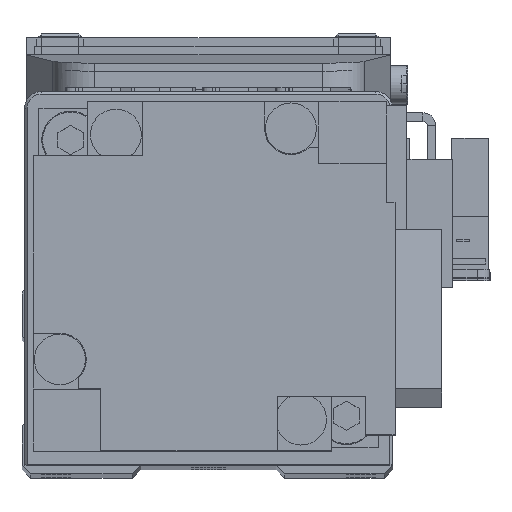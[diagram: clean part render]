
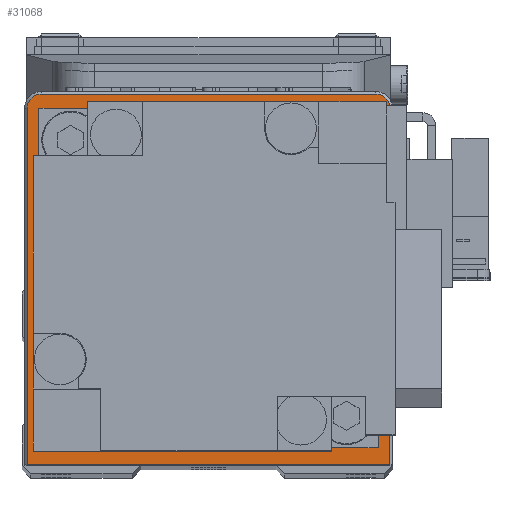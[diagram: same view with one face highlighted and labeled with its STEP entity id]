
A CAD part, top view. The second image highlights one B-rep face of the part: STEP entity #31068.
In plain terms, the highlighted planar face has unit normal (0, 0, 1).
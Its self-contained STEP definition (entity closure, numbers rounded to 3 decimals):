
#92 = CARTESIAN_POINT ( 'NONE',  ( 0., 0., 26.5 ) ) ;
#363 = EDGE_LOOP ( 'NONE', ( #32806, #1211 ) ) ;
#1211 = ORIENTED_EDGE ( 'NONE', *, *, #6149, .F. ) ;
#1346 = CARTESIAN_POINT ( 'NONE',  ( 19.7, 21.7, 26.5 ) ) ;
#1840 = AXIS2_PLACEMENT_3D ( 'NONE', #34528, #8550, #20105 ) ;
#1955 = CARTESIAN_POINT ( 'NONE',  ( -21.4, -22., 26.5 ) ) ;
#2043 = DIRECTION ( 'NONE',  ( 1., 0., 0. ) ) ;
#2388 = AXIS2_PLACEMENT_3D ( 'NONE', #37147, #11196, #22743 ) ;
#3725 = CARTESIAN_POINT ( 'NONE',  ( -21.4, 20., 26.5 ) ) ;
#4038 = DIRECTION ( 'NONE',  ( 0., 0., 1. ) ) ;
#4402 = ORIENTED_EDGE ( 'NONE', *, *, #22037, .T. ) ;
#4497 = CARTESIAN_POINT ( 'NONE',  ( 10., 0., 26.5 ) ) ;
#6149 = EDGE_CURVE ( 'NONE', #33323, #26810, #14193, .T. ) ;
#6882 = FACE_BOUND ( 'NONE', #363, .T. ) ;
#7528 = DIRECTION ( 'NONE',  ( 0., 1., 0. ) ) ;
#7755 = EDGE_CURVE ( 'NONE', #34966, #29359, #27921, .T. ) ;
#8550 = DIRECTION ( 'NONE',  ( 0., 0., 1. ) ) ;
#9346 = DIRECTION ( 'NONE',  ( 1., 0., 0. ) ) ;
#11196 = DIRECTION ( 'NONE',  ( 0., 0., 1. ) ) ;
#11220 = VERTEX_POINT ( 'NONE', #1346 ) ;
#11343 = CARTESIAN_POINT ( 'NONE',  ( -19.7, 21.7, 26.5 ) ) ;
#11678 = DIRECTION ( 'NONE',  ( 0., 0., 1. ) ) ;
#13537 = DIRECTION ( 'NONE',  ( 0., -1., 0. ) ) ;
#13698 = ORIENTED_EDGE ( 'NONE', *, *, #26426, .T. ) ;
#13861 = EDGE_CURVE ( 'NONE', #29766, #34966, #18741, .T. ) ;
#14193 = CIRCLE ( 'NONE', #35370, 10. ) ;
#14202 = EDGE_CURVE ( 'NONE', #33894, #17126, #21936, .T. ) ;
#14374 = EDGE_CURVE ( 'NONE', #11220, #29766, #37290, .T. ) ;
#15624 = DIRECTION ( 'NONE',  ( 1., 0., 0. ) ) ;
#16142 = CIRCLE ( 'NONE', #37313, 10. ) ;
#16243 = ORIENTED_EDGE ( 'NONE', *, *, #13861, .T. ) ;
#16422 = CARTESIAN_POINT ( 'NONE',  ( -10., 0., 26.5 ) ) ;
#16470 = LINE ( 'NONE', #28005, #34048 ) ;
#17126 = VERTEX_POINT ( 'NONE', #35041 ) ;
#17299 = CARTESIAN_POINT ( 'NONE',  ( 21.4, -22., 26.5 ) ) ;
#17336 = ORIENTED_EDGE ( 'NONE', *, *, #7755, .T. ) ;
#18206 = CIRCLE ( 'NONE', #1840, 1.7 ) ;
#18459 = PLANE ( 'NONE',  #30668 ) ;
#18741 = CIRCLE ( 'NONE', #2388, 1.7 ) ;
#20105 = DIRECTION ( 'NONE',  ( 1., 0., 0. ) ) ;
#21936 = LINE ( 'NONE', #33514, #32089 ) ;
#22037 = EDGE_CURVE ( 'NONE', #17126, #11220, #18206, .T. ) ;
#22743 = DIRECTION ( 'NONE',  ( 1., 0., 0. ) ) ;
#22887 = DIRECTION ( 'NONE',  ( -1., 0., 0. ) ) ;
#23219 = DIRECTION ( 'NONE',  ( 1., 0., 0. ) ) ;
#23738 = CARTESIAN_POINT ( 'NONE',  ( 0., 0., 26.5 ) ) ;
#23850 = EDGE_LOOP ( 'NONE', ( #13698, #28919, #4402, #26404, #16243, #17336 ) ) ;
#24560 = VECTOR ( 'NONE', #13537, 1000. ) ;
#26404 = ORIENTED_EDGE ( 'NONE', *, *, #14374, .T. ) ;
#26426 = EDGE_CURVE ( 'NONE', #29359, #33894, #16470, .T. ) ;
#26634 = VECTOR ( 'NONE', #22887, 1000. ) ;
#26810 = VERTEX_POINT ( 'NONE', #16422 ) ;
#27921 = LINE ( 'NONE', #1955, #24560 ) ;
#28005 = CARTESIAN_POINT ( 'NONE',  ( -21.7, -22., 26.5 ) ) ;
#28919 = ORIENTED_EDGE ( 'NONE', *, *, #14202, .T. ) ;
#29359 = VERTEX_POINT ( 'NONE', #30409 ) ;
#29766 = VERTEX_POINT ( 'NONE', #30868 ) ;
#30006 = CARTESIAN_POINT ( 'NONE',  ( 0., 0., 26.5 ) ) ;
#30409 = CARTESIAN_POINT ( 'NONE',  ( -21.4, -22., 26.5 ) ) ;
#30668 = AXIS2_PLACEMENT_3D ( 'NONE', #30006, #4038, #15624 ) ;
#30868 = CARTESIAN_POINT ( 'NONE',  ( -19.7, 21.7, 26.5 ) ) ;
#31068 = ADVANCED_FACE ( 'NONE', ( #32862, #6882 ), #18459, .T. ) ;
#32089 = VECTOR ( 'NONE', #7528, 1000. ) ;
#32106 = EDGE_CURVE ( 'NONE', #26810, #33323, #16142, .T. ) ;
#32806 = ORIENTED_EDGE ( 'NONE', *, *, #32106, .F. ) ;
#32862 = FACE_OUTER_BOUND ( 'NONE', #23850, .T. ) ;
#33323 = VERTEX_POINT ( 'NONE', #4497 ) ;
#33514 = CARTESIAN_POINT ( 'NONE',  ( 21.4, 20., 26.5 ) ) ;
#33894 = VERTEX_POINT ( 'NONE', #17299 ) ;
#34048 = VECTOR ( 'NONE', #2043, 1000. ) ;
#34528 = CARTESIAN_POINT ( 'NONE',  ( 19.7, 20., 26.5 ) ) ;
#34966 = VERTEX_POINT ( 'NONE', #3725 ) ;
#35041 = CARTESIAN_POINT ( 'NONE',  ( 21.4, 20., 26.5 ) ) ;
#35313 = DIRECTION ( 'NONE',  ( 0., 0., 1. ) ) ;
#35370 = AXIS2_PLACEMENT_3D ( 'NONE', #23738, #35313, #9346 ) ;
#37147 = CARTESIAN_POINT ( 'NONE',  ( -19.7, 20., 26.5 ) ) ;
#37290 = LINE ( 'NONE', #11343, #26634 ) ;
#37313 = AXIS2_PLACEMENT_3D ( 'NONE', #92, #11678, #23219 ) ;
